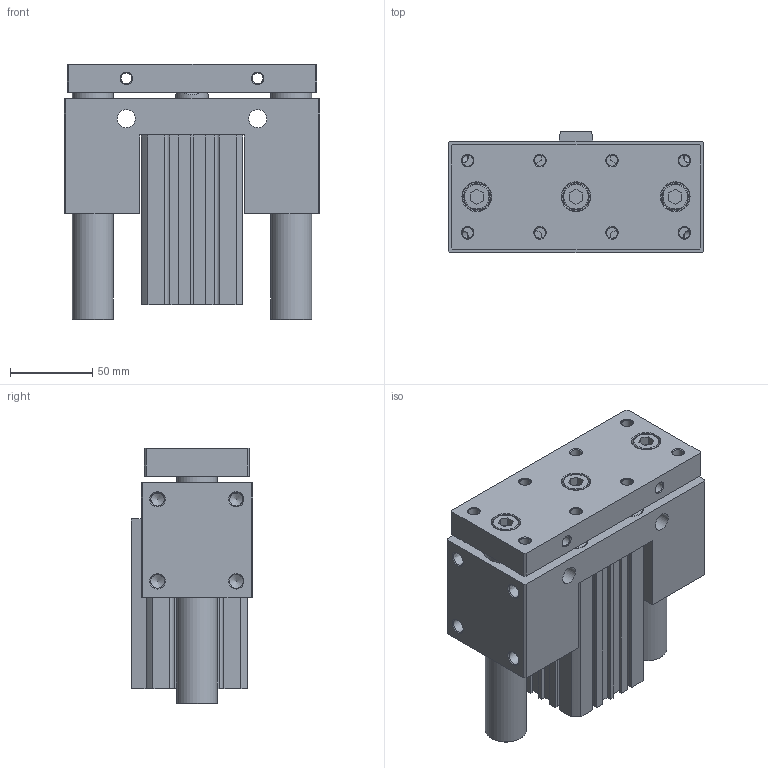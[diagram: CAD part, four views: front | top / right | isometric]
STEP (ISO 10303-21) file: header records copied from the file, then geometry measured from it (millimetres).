
FILE_DESCRIPTION((''),'2;1');
FILE_NAME('I:\3D電子目錄\氣缸\JCB\JCB\JCB50-S\JCB50x65-S.stp','2007-08-30T16:31:44',('Administrator'),(''),'Autodesk Inventor 11','Autodesk Inventor 11','');
FILE_SCHEMA(('AUTOMOTIVE_DESIGN { 1 0 10303 214 1 1 1 1 }'));
Length unit declared in the file: millimetre
Products named in the file (1): JCB50
Bounding box: 156 x 74 x 155.5 mm (x, y, z)
Volume: 1066870.5 mm3; surface area: 189614 mm2
Topology: 3 solids, 3 shells, 328 faces, 786 edges, 510 vertices
Faces by surface type: plane 190, cylinder 58, cone 45, bspline 31, torus 4
Full cylindrical faces by diameter (mm): 2.7 x2, 6.8 x4, 8.376 x4, 11 x8, 13 x4, 14 x4, 16 x3, 17.5 x3, 20 x1, 21 x1, 25 x2, 28 x2, 37 x1, 38 x1, 52 x4, 55 x2
Entity records: 9390 total; most frequent: CARTESIAN_POINT 2294, DIRECTION 1434, ORIENTED_EDGE 1264, EDGE_CURVE 632, EDGE_LOOP 536, AXIS2_PLACEMENT_3D 512, VERTEX_POINT 480, VECTOR 410
